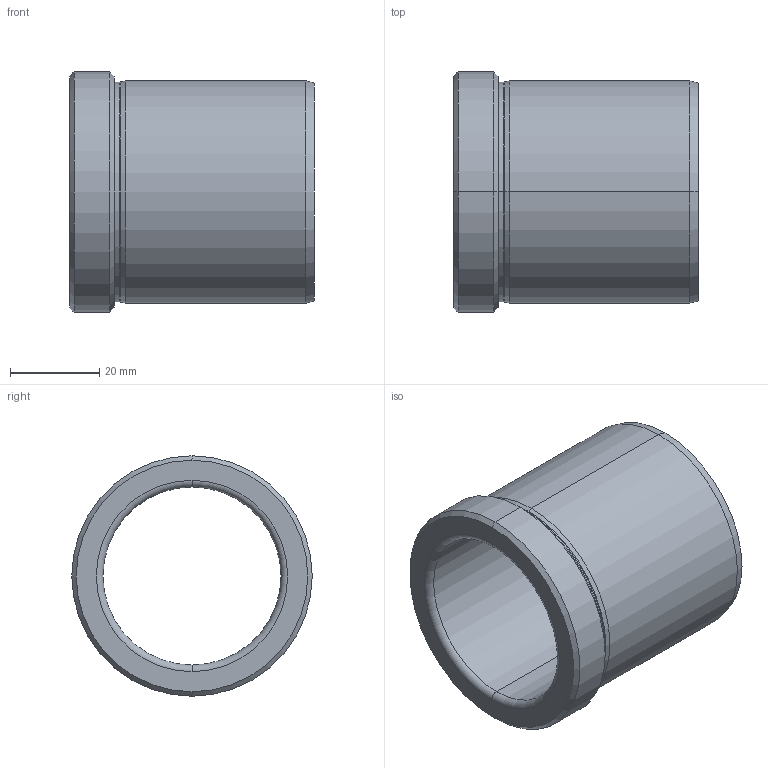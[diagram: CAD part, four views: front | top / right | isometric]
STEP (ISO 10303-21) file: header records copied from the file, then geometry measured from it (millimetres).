
FILE_DESCRIPTION (( 'STEP AP214' ), '1' );
FILE_NAME ('BRCVBG-40x55.STEP', '2020-07-21T12:38:06', ( '' ), ( '' ), 'SwSTEP 2.0', 'SolidWorks 2018', '' );
FILE_SCHEMA (( 'AUTOMOTIVE_DESIGN' ));
Length unit declared in the file: millimetre
Products named in the file (1): BRCVBG-40x55
Bounding box: 55 x 54 x 54 mm (x, y, z)
Volume: 41740.8 mm3; surface area: 17435.9 mm2
Topology: 1 solids, 1 shells, 23 faces, 46 edges, 26 vertices
Faces by surface type: cone 8, cylinder 8, torus 4, plane 3
Entity records: 636 total; most frequent: DIRECTION 124, CARTESIAN_POINT 96, ORIENTED_EDGE 92, AXIS2_PLACEMENT_3D 54, EDGE_CURVE 46, CIRCLE 30, VERTEX_POINT 26, EDGE_LOOP 26
